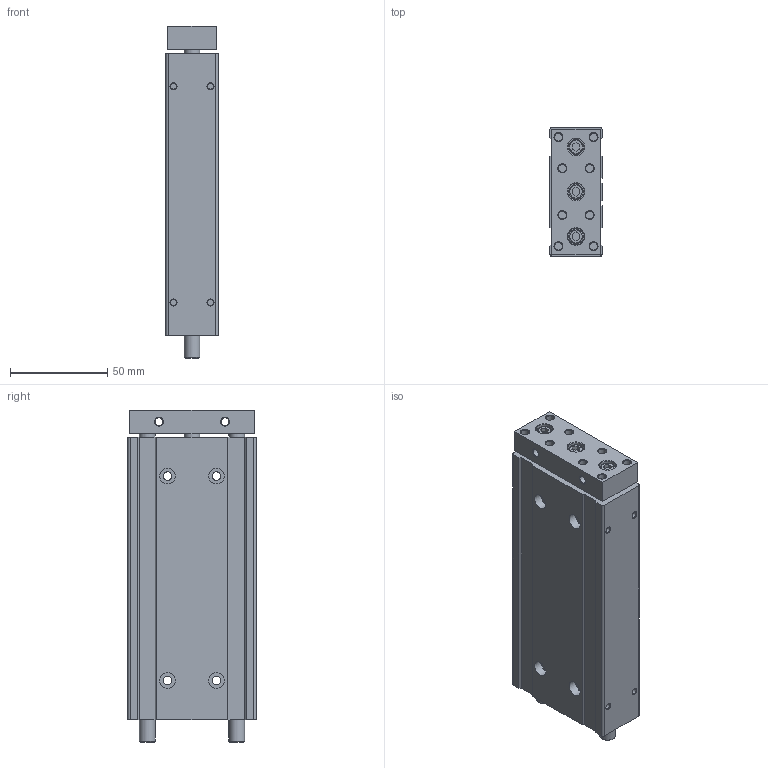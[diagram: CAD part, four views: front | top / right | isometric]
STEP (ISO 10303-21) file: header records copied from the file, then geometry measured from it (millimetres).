
FILE_DESCRIPTION((''),'2;1');
FILE_NAME('I:\3D電子目錄\氣缸\TB(U)\TB(U)16\TB(U)16\TB(U)16x100.stp','2007-08-06T08:10:13',('Administrator'),(''),'Autodesk Inventor 2008','Autodesk Inventor 2008','');
FILE_SCHEMA(('AUTOMOTIVE_DESIGN { 1 0 10303 214 1 1 1 1 }'));
Length unit declared in the file: millimetre
Products named in the file (1): TB(U)16X100
Bounding box: 27 x 66 x 170.5 mm (x, y, z)
Volume: 260268.7 mm3; surface area: 45319.2 mm2
Topology: 1 solids, 1 shells, 184 faces, 396 edges, 252 vertices
Faces by surface type: plane 84, cylinder 52, cone 37, bspline 8, torus 3
Full cylindrical faces by diameter (mm): 3 x4, 4 x10, 4.4 x4, 5 x6, 7.5 x3, 8 x13, 8.5 x3, 15 x2, 18 x1
Entity records: 4640 total; most frequent: CARTESIAN_POINT 815, DIRECTION 808, ORIENTED_EDGE 604, EDGE_LOOP 344, AXIS2_PLACEMENT_3D 329, EDGE_CURVE 302, VERTEX_POINT 248, FACE_OUTER_BOUND 184
